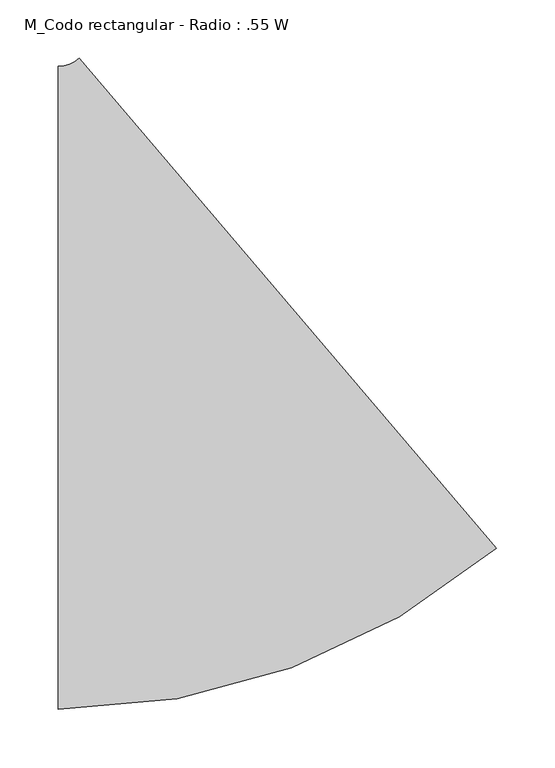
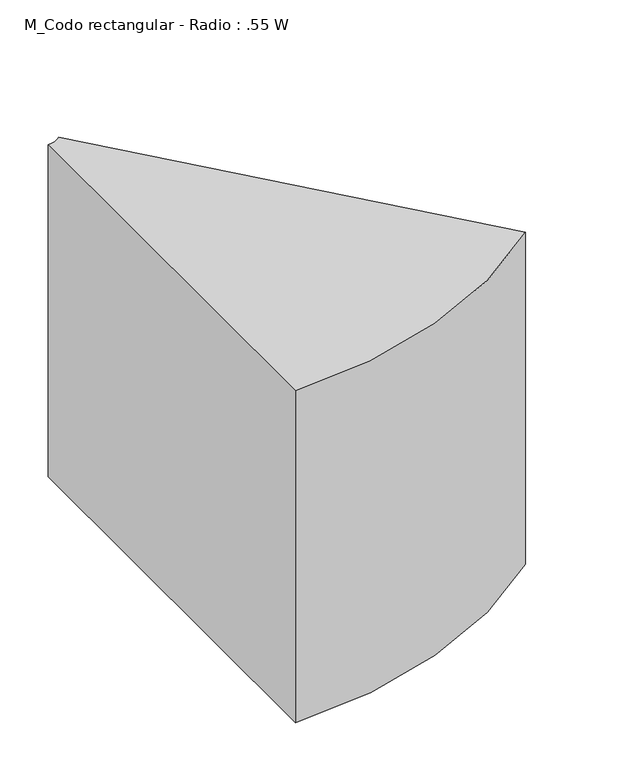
"""IFC4 building model written with IfcOpenShell, lengths in millimetres: duct fitting geometry, M_Codo rectangular - Radio : .55 W."""

from ifc_helpers import new_model, si_unit, point, frame, frame_2d, origin, place, context, project, spatial, polyline, circle_curve, trimmed, segment, composite_curve, outline, extrude, source, transform, mapped, element, save


def m_codo_rectangular_radio_55_w_2b8a7b0d(model_context):
    return source(origin(), model_context, "Body", "SweptSolid", [
        extrude(outline(composite_curve([segment(trimmed(circle_curve(frame_2d((-111.4183806, 302.5)), 577.5), [point((263.1781841, -137.0266359))], [point((-111.4183806, -275.0))], False, "CARTESIAN"), True, "CONTINUOUS"), segment(polyline([(-111.4183806, -275.0), (-111.4183806, 275.0)]), True, "CONTINUOUS"), segment(trimmed(circle_curve(frame_2d((-111.4183806, 302.5)), 27.5), [point((-111.4183806, 275.0))], [point((-93.580449, 281.5701602))], True, "CARTESIAN"), True, "CONTINUOUS"), segment(polyline([(-93.580449, 281.5701602), (263.1781841, -137.0266359)]), True, "CONTINUOUS")], self_intersect=False)), frame((0.0, 0.0, -225.0), z_axis=(0.0, 0.0, 1.0), x_axis=(1.0, 0.0, 0.0)), (0.0, 0.0, 1.0), 450.0),
    ])


if __name__ == "__main__":
    model = new_model("IFC4")
    model_context = context("Model", 3, world=origin())
    ifc_project = project(units=[si_unit("LENGTHUNIT", "METRE", prefix="MILLI")], contexts=[model_context])
    site = spatial("IfcSite", under=ifc_project)
    building = spatial("IfcBuilding", under=site)
    placement = place(None, origin())
    m_codo_rectangular_radio_55_w_shape = m_codo_rectangular_radio_55_w_2b8a7b0d(model_context)
    element("IfcDuctFitting", 1, ObjectType="M_Codo rectangular - Radio : .55 W", at=placement, inside=building, context=model_context, shape_type="MappedRepresentation", body=[
        mapped(m_codo_rectangular_radio_55_w_shape, transform((0.0, 0.0, 0.0), x_axis=(1.0, 0.0, 0.0), y_axis=(0.0, 1.0, 0.0), z_axis=(0.0, 0.0, 1.0))),
    ])
    save(model, "model.ifc")
